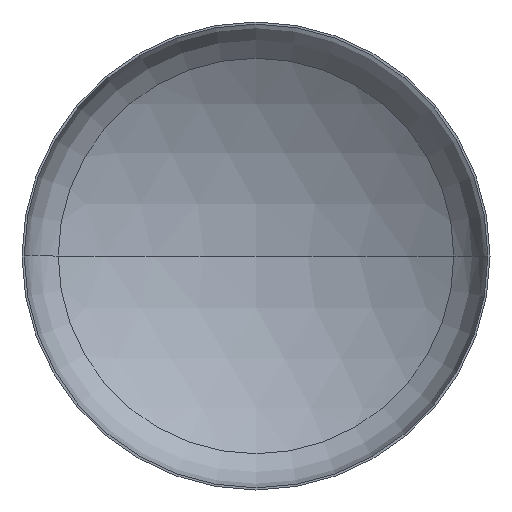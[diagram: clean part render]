
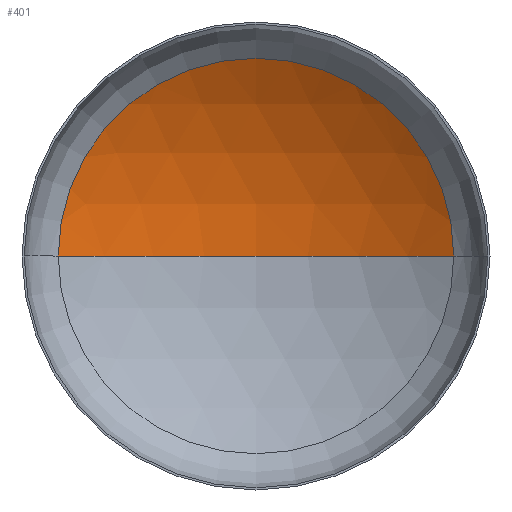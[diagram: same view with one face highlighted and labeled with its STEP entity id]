
A CAD part, front view. The second image highlights one B-rep face of the part: STEP entity #401.
In plain terms, the highlighted spherical face has radius 4800 mm.
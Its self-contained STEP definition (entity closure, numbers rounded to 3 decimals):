
#23 = VERTEX_POINT ( 'NONE', #290 ) ;
#64 = CARTESIAN_POINT ( 'NONE',  ( 0., -3205.2, 0. ) ) ;
#79 = ORIENTED_EDGE ( 'NONE', *, *, #184, .T. ) ;
#85 = VERTEX_POINT ( 'NONE', #248 ) ;
#93 = ORIENTED_EDGE ( 'NONE', *, *, #187, .T. ) ;
#94 = EDGE_LOOP ( 'NONE', ( #205, #93, #79 ) ) ;
#97 = AXIS2_PLACEMENT_3D ( 'NONE', #64, #390, #282 ) ;
#104 = VERTEX_POINT ( 'NONE', #346 ) ;
#116 = AXIS2_PLACEMENT_3D ( 'NONE', #193, #201, #216 ) ;
#119 = AXIS2_PLACEMENT_3D ( 'NONE', #161, #202, #361 ) ;
#122 = AXIS2_PLACEMENT_3D ( 'NONE', #224, #318, #131 ) ;
#131 = DIRECTION ( 'NONE',  ( 1., 0., 0. ) ) ;
#161 = CARTESIAN_POINT ( 'NONE',  ( 0., -3205.2, 0. ) ) ;
#184 = EDGE_CURVE ( 'NONE', #85, #104, #409, .T. ) ;
#187 = EDGE_CURVE ( 'NONE', #23, #85, #353, .T. ) ;
#191 = EDGE_CURVE ( 'NONE', #23, #104, #239, .T. ) ;
#193 = CARTESIAN_POINT ( 'NONE',  ( 0., -3205.2, 0. ) ) ;
#201 = DIRECTION ( 'NONE',  ( 0., 0., 1. ) ) ;
#202 = DIRECTION ( 'NONE',  ( 0., 0., -1. ) ) ;
#205 = ORIENTED_EDGE ( 'NONE', *, *, #191, .F. ) ;
#216 = DIRECTION ( 'NONE',  ( 1., 0., 0. ) ) ;
#224 = CARTESIAN_POINT ( 'NONE',  ( 0., 870.403, 0. ) ) ;
#239 = CIRCLE ( 'NONE', #116, 4800. ) ;
#248 = CARTESIAN_POINT ( 'NONE',  ( 2535.639, 870.403, 0. ) ) ;
#250 = SPHERICAL_SURFACE ( 'NONE', #97, 4800. ) ;
#260 = FACE_OUTER_BOUND ( 'NONE', #94, .T. ) ;
#282 = DIRECTION ( 'NONE',  ( -1., 0., 0. ) ) ;
#290 = CARTESIAN_POINT ( 'NONE',  ( 0., 1594.8, 0. ) ) ;
#318 = DIRECTION ( 'NONE',  ( 0., -1., 0. ) ) ;
#346 = CARTESIAN_POINT ( 'NONE',  ( -2535.639, 870.403, 0. ) ) ;
#353 = CIRCLE ( 'NONE', #119, 4800. ) ;
#361 = DIRECTION ( 'NONE',  ( -1., 0., 0. ) ) ;
#390 = DIRECTION ( 'NONE',  ( 0., 0., -1. ) ) ;
#401 = ADVANCED_FACE ( 'NONE', ( #260 ), #250, .F. ) ;
#409 = CIRCLE ( 'NONE', #122, 2535.639 ) ;
